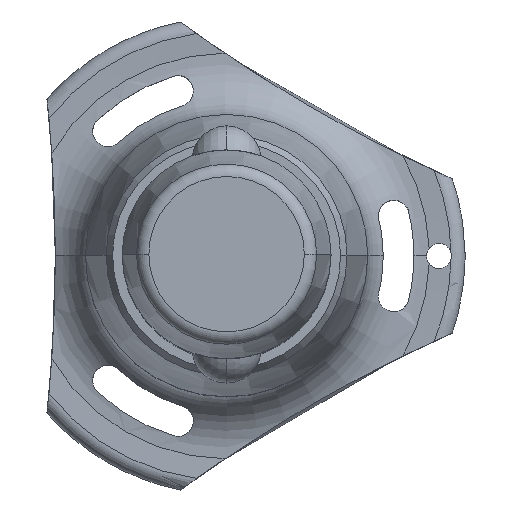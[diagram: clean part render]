
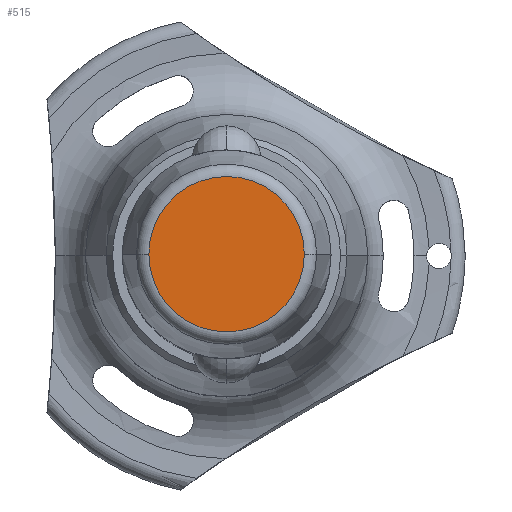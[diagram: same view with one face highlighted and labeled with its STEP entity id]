
A CAD part, top view. The second image highlights one B-rep face of the part: STEP entity #515.
In plain terms, the highlighted planar face has unit normal (0, 0, 1).
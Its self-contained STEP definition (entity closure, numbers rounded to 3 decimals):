
#162 = DIRECTION ( 'NONE',  ( 1., 0., 0. ) ) ;
#260 = DIRECTION ( 'NONE',  ( 1., 0., 0. ) ) ;
#286 = VERTEX_POINT ( 'NONE', #1703 ) ;
#509 = DIRECTION ( 'NONE',  ( 1., 0., 0. ) ) ;
#515 = ADVANCED_FACE ( 'NONE', ( #1490 ), #2161, .T. ) ;
#576 = DIRECTION ( 'NONE',  ( 0., 0., 1. ) ) ;
#831 = CARTESIAN_POINT ( 'NONE',  ( 9.302, 0., 22. ) ) ;
#1291 = EDGE_LOOP ( 'NONE', ( #1301, #2846 ) ) ;
#1301 = ORIENTED_EDGE ( 'NONE', *, *, #2126, .T. ) ;
#1314 = AXIS2_PLACEMENT_3D ( 'NONE', #2581, #576, #162 ) ;
#1356 = DIRECTION ( 'NONE',  ( 0., 0., 1. ) ) ;
#1490 = FACE_OUTER_BOUND ( 'NONE', #1291, .T. ) ;
#1544 = AXIS2_PLACEMENT_3D ( 'NONE', #2491, #1847, #509 ) ;
#1703 = CARTESIAN_POINT ( 'NONE',  ( -9.302, 0., 22. ) ) ;
#1847 = DIRECTION ( 'NONE',  ( 0., 0., 1. ) ) ;
#1887 = EDGE_CURVE ( 'NONE', #286, #2277, #2062, .T. ) ;
#2062 = CIRCLE ( 'NONE', #1544, 9.302 ) ;
#2126 = EDGE_CURVE ( 'NONE', #2277, #286, #2292, .T. ) ;
#2161 = PLANE ( 'NONE',  #1314 ) ;
#2277 = VERTEX_POINT ( 'NONE', #831 ) ;
#2292 = CIRCLE ( 'NONE', #2844, 9.302 ) ;
#2452 = CARTESIAN_POINT ( 'NONE',  ( 0., 0., 22. ) ) ;
#2491 = CARTESIAN_POINT ( 'NONE',  ( 0., 0., 22. ) ) ;
#2581 = CARTESIAN_POINT ( 'NONE',  ( 0., 0., 22. ) ) ;
#2844 = AXIS2_PLACEMENT_3D ( 'NONE', #2452, #1356, #260 ) ;
#2846 = ORIENTED_EDGE ( 'NONE', *, *, #1887, .T. ) ;
